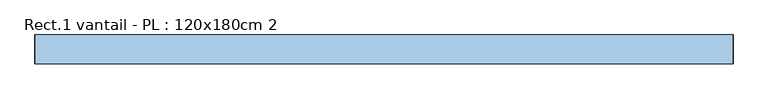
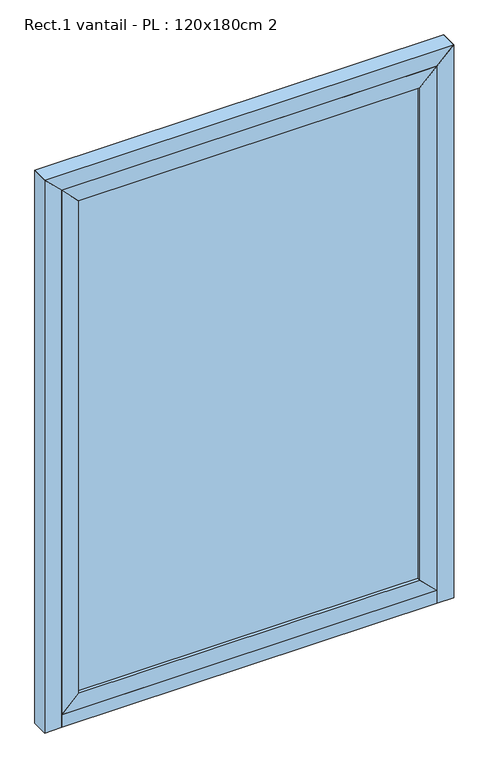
"""IFC4 building model written with IfcOpenShell, lengths in millimetres: window geometry, Rect.1 vantail - PL : 120x180cm 2."""

from ifc_helpers import new_model, si_unit, frame, origin, origin_with_axes, place, context, project, spatial, polyline, outline, extrude, source, transform, mapped, element, save


def rect_1_vantail_pl_120x180cm_2_bd5a3c36(model_context):
    return source(origin(), model_context, "Body", "SweptSolid", [
        extrude(outline(polyline([(505.0, 10.0), (-505.0, 10.0), (-505.0, 30.0), (505.0, 30.0), (505.0, 10.0)])), frame((0.0, 0.0, 90.0), z_axis=(0.0, 0.0, 1.0), x_axis=(1.0, 0.0, 0.0)), (0.0, 0.0, 1.0), 1540.0),
        extrude(outline(polyline([(40.0, -555.0), (90.0, -505.0), (1630.0, -505.0), (1680.0, -555.0), (40.0, -555.0)])), frame((0.0, 0.0, 0.0), z_axis=(0.0, 1.0, 0.0), x_axis=(0.0, 0.0, 1.0)), (0.0, 0.0, 1.0), 40.0),
        extrude(outline(polyline([(90.0, 505.0), (40.0, 555.0), (1680.0, 555.0), (1630.0, 505.0), (90.0, 505.0)])), frame((0.0, 0.0, 0.0), z_axis=(0.0, 1.0, 0.0), x_axis=(0.0, 0.0, 1.0)), (0.0, 0.0, 1.0), 40.0),
        extrude(outline(polyline([(1680.0, 555.0), (1680.0, -555.0), (1630.0, -505.0), (1630.0, 505.0), (1680.0, 555.0)])), frame((0.0, 0.0, 0.0), z_axis=(0.0, 1.0, 0.0), x_axis=(0.0, 0.0, 1.0)), (0.0, 0.0, 1.0), 40.0),
        extrude(outline(polyline([(40.0, 555.0), (90.0, 505.0), (90.0, -505.0), (40.0, -555.0), (40.0, 555.0)])), frame((0.0, 0.0, 0.0), z_axis=(0.0, 1.0, 0.0), x_axis=(0.0, 0.0, 1.0)), (0.0, 0.0, 1.0), 40.0),
        extrude(outline(polyline([(555.0, 50.0), (555.0, 0.0), (-555.0, 0.0), (-555.0, 50.0), (555.0, 50.0)])), origin_with_axes(), (0.0, 0.0, 1.0), 40.0),
        extrude(outline(polyline([(20.0, 30.0), (50.0, 40.0), (50.0, 0.0), (20.0, 0.0), (20.0, 30.0)])), frame((-575.0, 0.0, 0.0), z_axis=(1.0, 0.0, 0.0), x_axis=(0.0, 1.0, 0.0)), (0.0, 0.0, 1.0), 1150.0),
        extrude(outline(polyline([(1710.0, -585.0), (0.0, -585.0), (0.0, -575.0), (1700.0, -575.0), (1710.0, -585.0)])), frame((0.0, 10.0, 0.0), z_axis=(0.0, 1.0, 0.0), x_axis=(0.0, 0.0, 1.0)), (0.0, 0.0, 1.0), 40.0),
        extrude(outline(polyline([(1710.0, 585.0), (1700.0, 575.0), (0.0, 575.0), (0.0, 585.0), (1710.0, 585.0)])), frame((0.0, 10.0, 0.0), z_axis=(0.0, 1.0, 0.0), x_axis=(0.0, 0.0, 1.0)), (0.0, 0.0, 1.0), 40.0),
        extrude(outline(polyline([(0.0, -605.0), (0.0, -555.0), (1680.0, -555.0), (1730.0, -605.0), (0.0, -605.0)])), frame((0.0, 0.0, 0.0), z_axis=(0.0, 1.0, 0.0), x_axis=(0.0, 0.0, 1.0)), (0.0, 0.0, 1.0), 50.0),
        extrude(outline(polyline([(0.0, 605.0), (1730.0, 605.0), (1680.0, 555.0), (0.0, 555.0), (0.0, 605.0)])), frame((0.0, 0.0, 0.0), z_axis=(0.0, 1.0, 0.0), x_axis=(0.0, 0.0, 1.0)), (0.0, 0.0, 1.0), 50.0),
        extrude(outline(polyline([(1710.0, -585.0), (1700.0, -575.0), (1700.0, 575.0), (1710.0, 585.0), (1710.0, -585.0)])), frame((0.0, 10.0, 0.0), z_axis=(0.0, 1.0, 0.0), x_axis=(0.0, 0.0, 1.0)), (0.0, 0.0, 1.0), 40.0),
        extrude(outline(polyline([(1730.0, 605.0), (1730.0, -605.0), (1680.0, -555.0), (1680.0, 555.0), (1730.0, 605.0)])), frame((0.0, 0.0, 0.0), z_axis=(0.0, 1.0, 0.0), x_axis=(0.0, 0.0, 1.0)), (0.0, 0.0, 1.0), 50.0),
    ])


if __name__ == "__main__":
    model = new_model("IFC4")
    model_context = context("Model", 3, world=origin())
    ifc_project = project(units=[si_unit("LENGTHUNIT", "METRE", prefix="MILLI")], contexts=[model_context])
    site = spatial("IfcSite", under=ifc_project)
    building = spatial("IfcBuilding", under=site)
    placement = place(None, origin())
    rect_1_vantail_pl_120x180cm_2_shape = rect_1_vantail_pl_120x180cm_2_bd5a3c36(model_context)
    element("IfcWindow", 1, ObjectType="Rect.1 vantail - PL : 120x180cm 2", at=placement, inside=building, context=model_context, shape_type="MappedRepresentation", body=[
        mapped(rect_1_vantail_pl_120x180cm_2_shape, transform((0.0, 0.0, 0.0), x_axis=(1.0, 0.0, 0.0), y_axis=(0.0, 1.0, 0.0), z_axis=(0.0, 0.0, 1.0))),
    ])
    save(model, "model.ifc")
